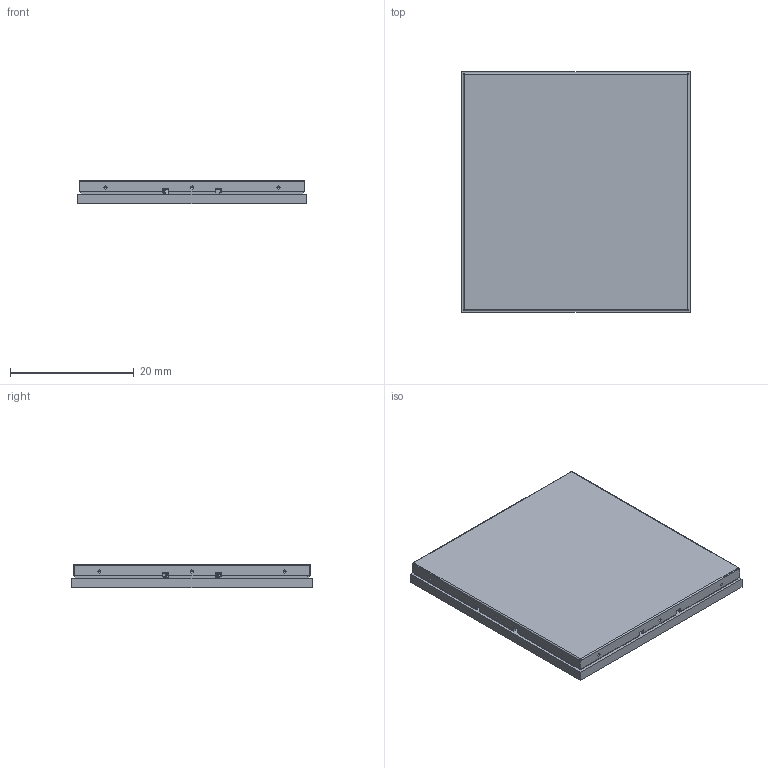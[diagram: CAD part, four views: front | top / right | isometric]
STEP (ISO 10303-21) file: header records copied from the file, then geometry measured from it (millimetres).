
FILE_DESCRIPTION((''),'2;1');
FILE_NAME('MYC-LMX9X-V10-20231208_ASM','2024-03-27T09:22:20',('89233'),(''),'CREO PARAMETRIC BY PTC INC, 2023073','CREO PARAMETRIC BY PTC INC, 2023073','');
FILE_SCHEMA(('AUTOMOTIVE_DESIGN { 1 0 10303 214 1 1 1 1 }'));
Products named in the file (430): NONE-58140_6; NONE-58141_6; NONE-58142_6; NONE-58143_6; SOT-23-3_ASM_6_ASM; SOT-23_ASM; PIN1-58094_6; PIN2-58095_6; CHIP-58096_6; FB0603-46885_ASM_6_ASM; FB0603-408469_ASM_6_ASM; FB0603_ASM; HVQFN56-0_4; BGA306; FILLET10_1; CUT-EXTRUDE1_1; USER_LIBRARY-USER_LIBRARY-RES02_ASM; R0201_ASM; R1206-46882_6; R1206_ASM; PART_147_185_1; PART_147_57_1; PART_147_137_1; PART_147_190_1; PART_147_59_1; PART_147_10_1; PART_147_196_1; PART_147_68_1; PART_147_67_1; PART_147_119_1; PART_147_70_1; PART_147_28_1; PART_147_31_1; PART_147_124_1; PART_147_179_1; PART_147_174_1; PART_147_127_1; PART_147_13_1; PART_147_147_1; PART_147_100_1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
Assembly tree (610 placements, depth 7):
  MYC-LMX9X-V10-20231208_ASM
    MYC-LMX9X-V10-20231208_1_ASM
      MYC-COMPONENTS_ASM
        SOT-23_ASM
          SOT-23-3_ASM_6_ASM
            NONE-58140_6
            NONE-58141_6
            NONE-58142_6
            NONE-58143_6
        FB0603_ASM
          FB0603-408469_ASM_6_ASM
            FB0603-46885_ASM_6_ASM
              PIN1-58094_6
              PIN2-58095_6
              CHIP-58096_6
        HVQFN56-0_4
        BGA306
        R0201_ASM  x45
          USER_LIBRARY-USER_LIBRARY-RES02_ASM
            FILLET10_1
            CUT-EXTRUDE1_1
        R1206_ASM  x2
          R1206-46882_6
        FBGA200_ASM
          FBGA200_ASM_1_ASM
            USER_LIBRARY-IS46LQ32128A-062BL_ASM
              PART_147_185_1
              PART_147_57_1
              PART_147_137_1
              PART_147_190_1
              PART_147_59_1
              PART_147_10_1
              PART_147_196_1
              PART_147_68_1
              PART_147_67_1
              PART_147_119_1
              PART_147_70_1
              PART_147_28_1
              PART_147_31_1
              PART_147_124_1
              PART_147_179_1
              PART_147_174_1
              PART_147_127_1
              PART_147_13_1
              PART_147_147_1
              PART_147_100_1
              PART_147_155_1
              PART_147_188_1
              PART_147_9_1
              PART_147_152_1
              PART_147_168_1
              PART_147_91_1
              PART_147_82_1
              PART_147_182_1
              PART_147_92_1
              PART_147_36_1
              PART_147_184_1
              PART_147_43_1
              PART_147_83_1
              PART_147_97_1
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Bounding box: 37 x 39 x 3.85 mm (x, y, z)
Volume: 3319 mm3; surface area: 9991.1 mm2
Topology: 890 solids, 890 shells, 11282 faces, 55032 edges, 55458 vertices
Faces by surface type: plane 6017, cylinder 2959, sphere 1650, torus 478, extrusion 116, bspline 62
Entity records: 471783 total; most frequent: DIRECTION 62147, CARTESIAN_POINT 61905, PRESENTATION_STYLE_ASSIGNMENT 34792, STYLED_ITEM 34348, CURVE_STYLE 33728, TRIMMED_CURVE 25070, VECTOR 24890, LINE 24774
